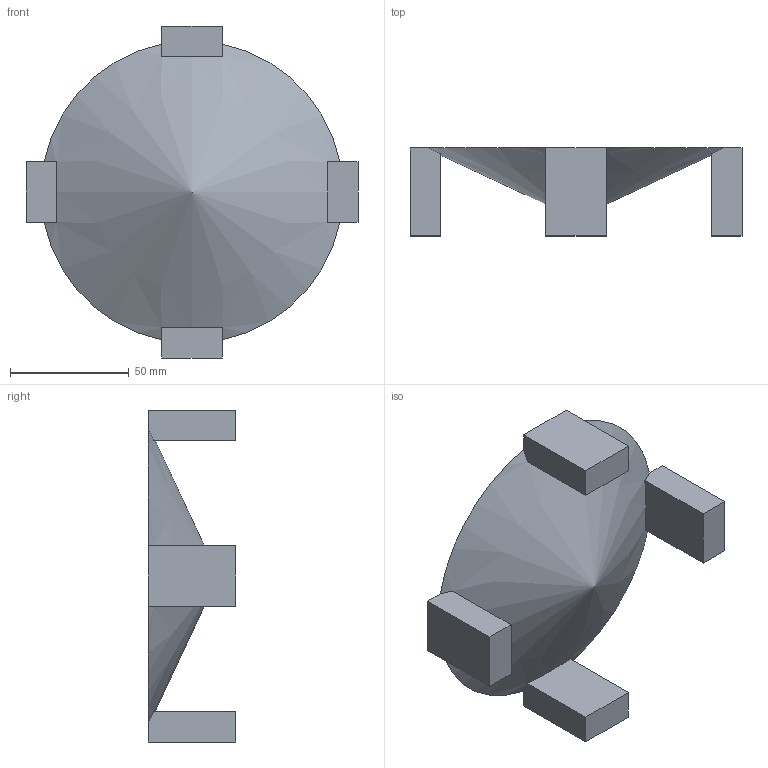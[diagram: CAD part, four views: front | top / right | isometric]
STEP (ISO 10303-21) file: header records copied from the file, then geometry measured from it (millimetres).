
FILE_DESCRIPTION(('STEP AP242 Edition 2','STEP AP242 Edition 2''CAx-IF Rec.Pracs.---Representation and Presentation of Product Manufacturing Information (PMI)---4.0---2014-10-13','STEP AP242 Edition 2''CAx-IF Rec.Pracs.---Representation and Presentation of Product Manufacturing Information (PMI)---4.0---2014-10-13''CAx-IF Rec.Pracs.---3D Tessellated Geometry---0.4---2014-09-14','STEP AP242 Edition 2''CAx-IF Rec.Pracs.---Representation and Presentation of Product Manufacturing Information (PMI)---4.0---2014-10-13''CAx-IF Rec.Pracs.---3D Tessellated Geometry---0.4---2014-09-14''2;1','STEP AP242 Edition 2''CAx-IF Rec.Pracs.---Representation and Presentation of Product Manufacturing Information (PMI)---4.0---2014-10-13''CAx-IF Rec.Pracs.---3D Tessellated Geometry---0.4---2014-09-14''2;1''CAx-IF Rec.Pracs.---User Defined Attributes---1.5---2016-08-15'),'2;1');
FILE_NAME('/vol/tmp/translate-2016734348789797861/Part Studio 1 - Part 19.step','2026-03-05T22:36:48',(''),(''),'ST-DEVELOPER v20','ONSHAPE BY PTC INC, 1.211',' ');
FILE_SCHEMA(('AP242_MANAGED_MODEL_BASED_3D_ENGINEERING_MIM_LF { 1 0 10303 442 3 1 4 }'));
Length unit declared in the file: metre
Products named in the file (1): Part 19
Bounding box: 139.7 x 37 x 139.7 mm (x, y, z)
Volume: 171942.9 mm3; surface area: 38911.6 mm2
Topology: 1 solids, 1 shells, 22 faces, 63 edges, 42 vertices
Faces by surface type: plane 21, cone 1
Entity records: 734 total; most frequent: CARTESIAN_POINT 168, ORIENTED_EDGE 120, DIRECTION 98, EDGE_CURVE 60, LINE 44, VECTOR 44, VERTEX_POINT 41, AXIS2_PLACEMENT_3D 27
